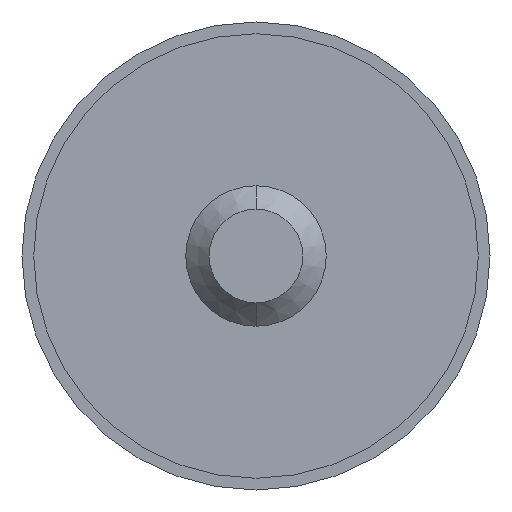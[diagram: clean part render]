
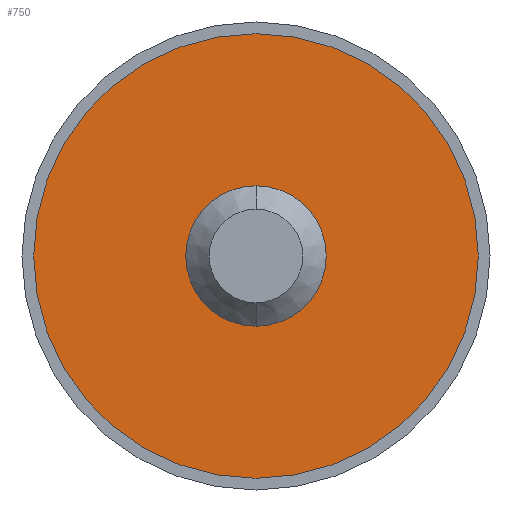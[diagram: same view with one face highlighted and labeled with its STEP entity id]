
A CAD part, front view. The second image highlights one B-rep face of the part: STEP entity #750.
In plain terms, the highlighted planar face has unit normal (0, -1, 0).
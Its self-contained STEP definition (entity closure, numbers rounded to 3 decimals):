
#100 = VERTEX_POINT ( 'NONE', #2901 ) ;
#150 = CARTESIAN_POINT ( 'NONE',  ( 0., -0.5, 9.5 ) ) ;
#173 = CIRCLE ( 'NONE', #3085, 3. ) ;
#216 = DIRECTION ( 'NONE',  ( 0., 0., 1. ) ) ;
#236 = CIRCLE ( 'NONE', #3080, 9.5 ) ;
#240 = CIRCLE ( 'NONE', #2475, 3. ) ;
#242 = CARTESIAN_POINT ( 'NONE',  ( 0., -0.5, 0. ) ) ;
#292 = EDGE_LOOP ( 'NONE', ( #630, #1105 ) ) ;
#351 = DIRECTION ( 'NONE',  ( 0., 0., 1. ) ) ;
#357 = VERTEX_POINT ( 'NONE', #2111 ) ;
#617 = FACE_BOUND ( 'NONE', #2411, .T. ) ;
#630 = ORIENTED_EDGE ( 'NONE', *, *, #1833, .F. ) ;
#679 = ORIENTED_EDGE ( 'NONE', *, *, #2675, .F. ) ;
#750 = ADVANCED_FACE ( 'NONE', ( #617, #1835 ), #1978, .F. ) ;
#766 = EDGE_CURVE ( 'NONE', #100, #3171, #240, .T. ) ;
#770 = CARTESIAN_POINT ( 'NONE',  ( 0., -0.5, 0. ) ) ;
#1105 = ORIENTED_EDGE ( 'NONE', *, *, #2570, .F. ) ;
#1142 = CARTESIAN_POINT ( 'NONE',  ( 0., -0.5, 0. ) ) ;
#1391 = DIRECTION ( 'NONE',  ( 0., -1., 0. ) ) ;
#1549 = CARTESIAN_POINT ( 'NONE',  ( 0., -0.5, 0. ) ) ;
#1663 = AXIS2_PLACEMENT_3D ( 'NONE', #242, #1729, #216 ) ;
#1705 = DIRECTION ( 'NONE',  ( 0., 0., 1. ) ) ;
#1715 = DIRECTION ( 'NONE',  ( 0., 0., -1. ) ) ;
#1729 = DIRECTION ( 'NONE',  ( 0., 1., 0. ) ) ;
#1833 = EDGE_CURVE ( 'NONE', #3554, #357, #236, .T. ) ;
#1835 = FACE_OUTER_BOUND ( 'NONE', #292, .T. ) ;
#1978 = PLANE ( 'NONE',  #1663 ) ;
#2111 = CARTESIAN_POINT ( 'NONE',  ( 0., -0.5, -9.5 ) ) ;
#2300 = CIRCLE ( 'NONE', #3796, 9.5 ) ;
#2411 = EDGE_LOOP ( 'NONE', ( #2521, #679 ) ) ;
#2475 = AXIS2_PLACEMENT_3D ( 'NONE', #1142, #2912, #1715 ) ;
#2521 = ORIENTED_EDGE ( 'NONE', *, *, #766, .F. ) ;
#2552 = CARTESIAN_POINT ( 'NONE',  ( 0., -0.5, -3. ) ) ;
#2570 = EDGE_CURVE ( 'NONE', #357, #3554, #2300, .T. ) ;
#2675 = EDGE_CURVE ( 'NONE', #3171, #100, #173, .T. ) ;
#2783 = DIRECTION ( 'NONE',  ( 0., 1., 0. ) ) ;
#2901 = CARTESIAN_POINT ( 'NONE',  ( 0., -0.5, 3. ) ) ;
#2912 = DIRECTION ( 'NONE',  ( 0., -1., 0. ) ) ;
#3080 = AXIS2_PLACEMENT_3D ( 'NONE', #3109, #2783, #351 ) ;
#3085 = AXIS2_PLACEMENT_3D ( 'NONE', #770, #1391, #3833 ) ;
#3109 = CARTESIAN_POINT ( 'NONE',  ( 0., -0.5, 0. ) ) ;
#3171 = VERTEX_POINT ( 'NONE', #2552 ) ;
#3554 = VERTEX_POINT ( 'NONE', #150 ) ;
#3685 = DIRECTION ( 'NONE',  ( 0., 1., 0. ) ) ;
#3796 = AXIS2_PLACEMENT_3D ( 'NONE', #1549, #3685, #1705 ) ;
#3833 = DIRECTION ( 'NONE',  ( 0., 0., -1. ) ) ;
